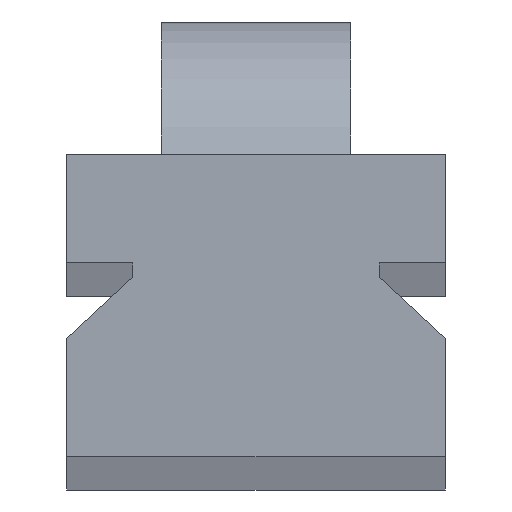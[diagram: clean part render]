
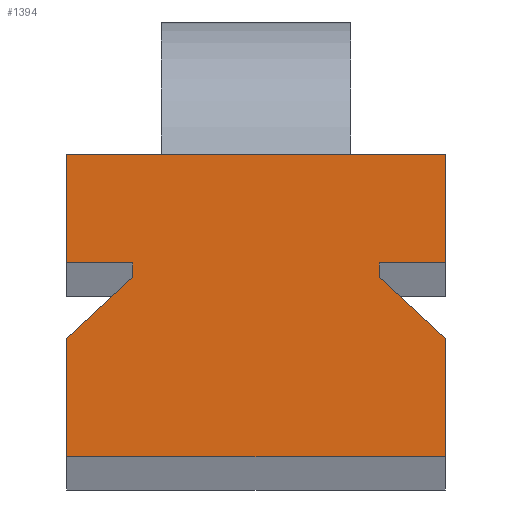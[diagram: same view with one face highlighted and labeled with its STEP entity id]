
A CAD part, top view. The second image highlights one B-rep face of the part: STEP entity #1394.
In plain terms, the highlighted planar face has unit normal (0, 0, 1).
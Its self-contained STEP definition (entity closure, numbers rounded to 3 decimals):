
#85 = VECTOR ( 'NONE', #3881, 1000. ) ;
#94 = CARTESIAN_POINT ( 'NONE',  ( -13., 20.5, 40. ) ) ;
#124 = AXIS2_PLACEMENT_3D ( 'NONE', #4054, #1035, #2380 ) ;
#159 = VECTOR ( 'NONE', #3172, 1000. ) ;
#212 = CARTESIAN_POINT ( 'NONE',  ( 13., 20.5, 40. ) ) ;
#214 = VERTEX_POINT ( 'NONE', #1183 ) ;
#241 = LINE ( 'NONE', #283, #85 ) ;
#283 = CARTESIAN_POINT ( 'NONE',  ( 20., 0., 40. ) ) ;
#289 = LINE ( 'NONE', #2035, #608 ) ;
#297 = VECTOR ( 'NONE', #4027, 1000. ) ;
#320 = ORIENTED_EDGE ( 'NONE', *, *, #2815, .T. ) ;
#449 = EDGE_CURVE ( 'NONE', #2559, #4151, #3563, .T. ) ;
#455 = LINE ( 'NONE', #3134, #3072 ) ;
#518 = EDGE_CURVE ( 'NONE', #2604, #214, #1997, .T. ) ;
#529 = DIRECTION ( 'NONE',  ( 0., -1., 0. ) ) ;
#539 = CARTESIAN_POINT ( 'NONE',  ( 20., 32., 40. ) ) ;
#552 = DIRECTION ( 'NONE',  ( 1., 0., 0. ) ) ;
#588 = CARTESIAN_POINT ( 'NONE',  ( -20., 32., 40. ) ) ;
#608 = VECTOR ( 'NONE', #4066, 1000. ) ;
#758 = CARTESIAN_POINT ( 'NONE',  ( 20., 20.5, 40. ) ) ;
#806 = DIRECTION ( 'NONE',  ( 1., 0., 0. ) ) ;
#819 = ORIENTED_EDGE ( 'NONE', *, *, #973, .T. ) ;
#838 = DIRECTION ( 'NONE',  ( -1., 0., 0. ) ) ;
#847 = ORIENTED_EDGE ( 'NONE', *, *, #3286, .T. ) ;
#877 = CARTESIAN_POINT ( 'NONE',  ( -20., 12.5, 40. ) ) ;
#967 = CARTESIAN_POINT ( 'NONE',  ( -13., 20.5, 40. ) ) ;
#973 = EDGE_CURVE ( 'NONE', #1874, #3313, #3029, .T. ) ;
#975 = CARTESIAN_POINT ( 'NONE',  ( 13., 20.5, 40. ) ) ;
#983 = CARTESIAN_POINT ( 'NONE',  ( -20., 32., 40. ) ) ;
#1018 = LINE ( 'NONE', #1991, #1202 ) ;
#1035 = DIRECTION ( 'NONE',  ( 0., 0., 1. ) ) ;
#1051 = ORIENTED_EDGE ( 'NONE', *, *, #4225, .T. ) ;
#1059 = ORIENTED_EDGE ( 'NONE', *, *, #2528, .T. ) ;
#1107 = VERTEX_POINT ( 'NONE', #758 ) ;
#1183 = CARTESIAN_POINT ( 'NONE',  ( -20., 20.5, 40. ) ) ;
#1202 = VECTOR ( 'NONE', #2731, 1000. ) ;
#1349 = DIRECTION ( 'NONE',  ( -0.733, 0.68, 0. ) ) ;
#1394 = ADVANCED_FACE ( 'NONE', ( #2704 ), #1741, .T. ) ;
#1424 = EDGE_CURVE ( 'NONE', #2911, #1471, #1781, .T. ) ;
#1452 = LINE ( 'NONE', #2794, #159 ) ;
#1469 = CARTESIAN_POINT ( 'NONE',  ( -13., 19., 40. ) ) ;
#1471 = VERTEX_POINT ( 'NONE', #1469 ) ;
#1526 = ORIENTED_EDGE ( 'NONE', *, *, #2202, .T. ) ;
#1631 = VERTEX_POINT ( 'NONE', #212 ) ;
#1699 = LINE ( 'NONE', #975, #2900 ) ;
#1709 = VECTOR ( 'NONE', #1349, 1000. ) ;
#1741 = PLANE ( 'NONE',  #124 ) ;
#1781 = LINE ( 'NONE', #94, #3832 ) ;
#1874 = VERTEX_POINT ( 'NONE', #2435 ) ;
#1925 = VERTEX_POINT ( 'NONE', #877 ) ;
#1927 = CARTESIAN_POINT ( 'NONE',  ( 20., 0., 40. ) ) ;
#1991 = CARTESIAN_POINT ( 'NONE',  ( 20., 32., 40. ) ) ;
#1995 = CARTESIAN_POINT ( 'NONE',  ( -20., 0., 40. ) ) ;
#1997 = LINE ( 'NONE', #983, #297 ) ;
#2035 = CARTESIAN_POINT ( 'NONE',  ( -20., 20.5, 40. ) ) ;
#2062 = LINE ( 'NONE', #1995, #2643 ) ;
#2202 = EDGE_CURVE ( 'NONE', #1925, #2559, #2062, .T. ) ;
#2319 = VECTOR ( 'NONE', #552, 1000. ) ;
#2369 = DIRECTION ( 'NONE',  ( 0., -1., 0. ) ) ;
#2380 = DIRECTION ( 'NONE',  ( 1., 0., 0. ) ) ;
#2435 = CARTESIAN_POINT ( 'NONE',  ( 20., 12.5, 40. ) ) ;
#2528 = EDGE_CURVE ( 'NONE', #214, #2911, #289, .T. ) ;
#2559 = VERTEX_POINT ( 'NONE', #3045 ) ;
#2604 = VERTEX_POINT ( 'NONE', #588 ) ;
#2617 = CARTESIAN_POINT ( 'NONE',  ( -20., 0., 40. ) ) ;
#2630 = CARTESIAN_POINT ( 'NONE',  ( 20., 12.5, 40. ) ) ;
#2643 = VECTOR ( 'NONE', #2369, 1000. ) ;
#2704 = FACE_OUTER_BOUND ( 'NONE', #3345, .T. ) ;
#2724 = ORIENTED_EDGE ( 'NONE', *, *, #518, .T. ) ;
#2731 = DIRECTION ( 'NONE',  ( 0., 1., 0. ) ) ;
#2794 = CARTESIAN_POINT ( 'NONE',  ( -20., 12.5, 40. ) ) ;
#2815 = EDGE_CURVE ( 'NONE', #3690, #2604, #3849, .T. ) ;
#2839 = ORIENTED_EDGE ( 'NONE', *, *, #4033, .T. ) ;
#2900 = VECTOR ( 'NONE', #4035, 1000. ) ;
#2911 = VERTEX_POINT ( 'NONE', #967 ) ;
#2975 = ORIENTED_EDGE ( 'NONE', *, *, #4086, .T. ) ;
#3024 = ORIENTED_EDGE ( 'NONE', *, *, #3789, .T. ) ;
#3029 = LINE ( 'NONE', #2630, #1709 ) ;
#3045 = CARTESIAN_POINT ( 'NONE',  ( -20., 0., 40. ) ) ;
#3072 = VECTOR ( 'NONE', #806, 1000. ) ;
#3134 = CARTESIAN_POINT ( 'NONE',  ( 20., 20.5, 40. ) ) ;
#3172 = DIRECTION ( 'NONE',  ( -0.733, -0.68, 0. ) ) ;
#3209 = CARTESIAN_POINT ( 'NONE',  ( 20., 32., 40. ) ) ;
#3253 = ORIENTED_EDGE ( 'NONE', *, *, #449, .T. ) ;
#3286 = EDGE_CURVE ( 'NONE', #1631, #1107, #455, .T. ) ;
#3313 = VERTEX_POINT ( 'NONE', #3602 ) ;
#3345 = EDGE_LOOP ( 'NONE', ( #2975, #819, #1051, #847, #3024, #320, #2724, #1059, #4341, #2839, #1526, #3253 ) ) ;
#3563 = LINE ( 'NONE', #2617, #2319 ) ;
#3566 = VECTOR ( 'NONE', #838, 1000. ) ;
#3602 = CARTESIAN_POINT ( 'NONE',  ( 13., 19., 40. ) ) ;
#3690 = VERTEX_POINT ( 'NONE', #539 ) ;
#3789 = EDGE_CURVE ( 'NONE', #1107, #3690, #1018, .T. ) ;
#3832 = VECTOR ( 'NONE', #529, 1000. ) ;
#3849 = LINE ( 'NONE', #3209, #3566 ) ;
#3881 = DIRECTION ( 'NONE',  ( 0., 1., 0. ) ) ;
#4027 = DIRECTION ( 'NONE',  ( 0., -1., 0. ) ) ;
#4033 = EDGE_CURVE ( 'NONE', #1471, #1925, #1452, .T. ) ;
#4035 = DIRECTION ( 'NONE',  ( 0., 1., 0. ) ) ;
#4054 = CARTESIAN_POINT ( 'NONE',  ( 0., 0., 40. ) ) ;
#4066 = DIRECTION ( 'NONE',  ( 1., 0., 0. ) ) ;
#4086 = EDGE_CURVE ( 'NONE', #4151, #1874, #241, .T. ) ;
#4151 = VERTEX_POINT ( 'NONE', #1927 ) ;
#4225 = EDGE_CURVE ( 'NONE', #3313, #1631, #1699, .T. ) ;
#4341 = ORIENTED_EDGE ( 'NONE', *, *, #1424, .T. ) ;
